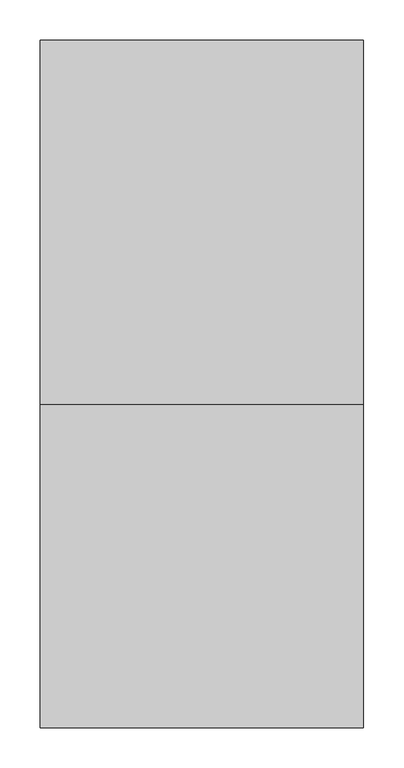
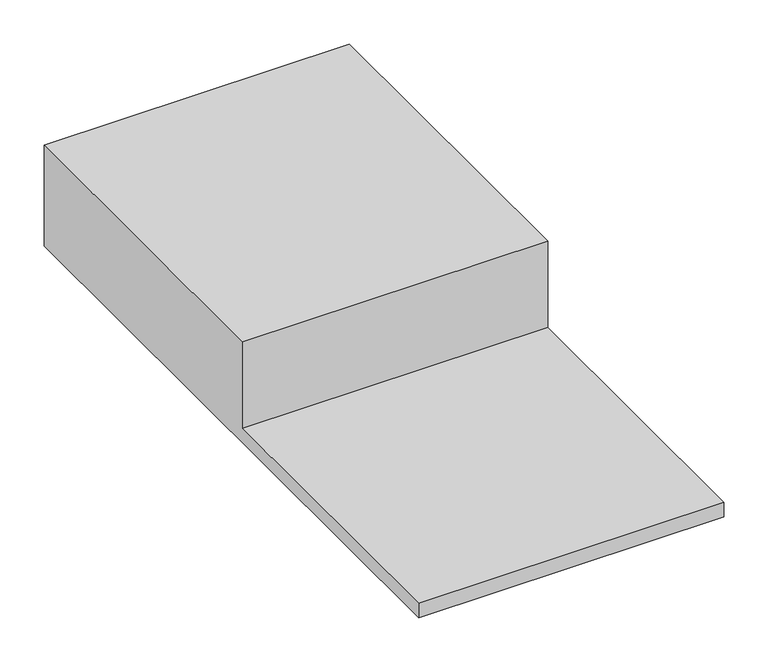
"""IFC4 building model written with IfcOpenShell, lengths in millimetres: proxy geometry, bossages appuis C1b : bossages appuis."""

from ifc_helpers import new_model, si_unit, frame, origin, place, context, project, spatial, polyline, outline, extrude, source, transform, mapped, element, save


def generic_models_34461063(model_context):
    return source(origin(), model_context, "Body", "SweptSolid", [
        extrude(outline(polyline([(1975.0, 4230.0), (1975.0, 4090.0), (1125.0, 4090.0), (1125.0, 4110.0), (1525.0, 4110.0), (1525.0, 4230.0), (1975.0, 4230.0)])), frame((6150.0, 0.0, 0.0), z_axis=(1.0, 0.0, 0.0), x_axis=(0.0, 1.0, 0.0)), (0.0, 0.0, 1.0), 400.0),
    ])


if __name__ == "__main__":
    model = new_model("IFC4")
    model_context = context("Model", 3, world=origin())
    ifc_project = project(units=[si_unit("LENGTHUNIT", "METRE", prefix="MILLI")], contexts=[model_context])
    site = spatial("IfcSite", under=ifc_project)
    building = spatial("IfcBuilding", under=site)
    placement = place(None, origin())
    generic_models_shape = generic_models_34461063(model_context)
    element("IfcBuildingElementProxy", 1, Name="bossages appuis C1b : bossages appuis", ObjectType="bossages appuis C1b : bossages appuis", at=placement, inside=building, context=model_context, shape_type="MappedRepresentation", body=[
        mapped(generic_models_shape, transform((0.0, 0.0, 0.0), x_axis=(1.0, 0.0, 0.0), y_axis=(0.0, 1.0, 0.0), z_axis=(0.0, 0.0, 1.0))),
    ])
    save(model, "model.ifc")
